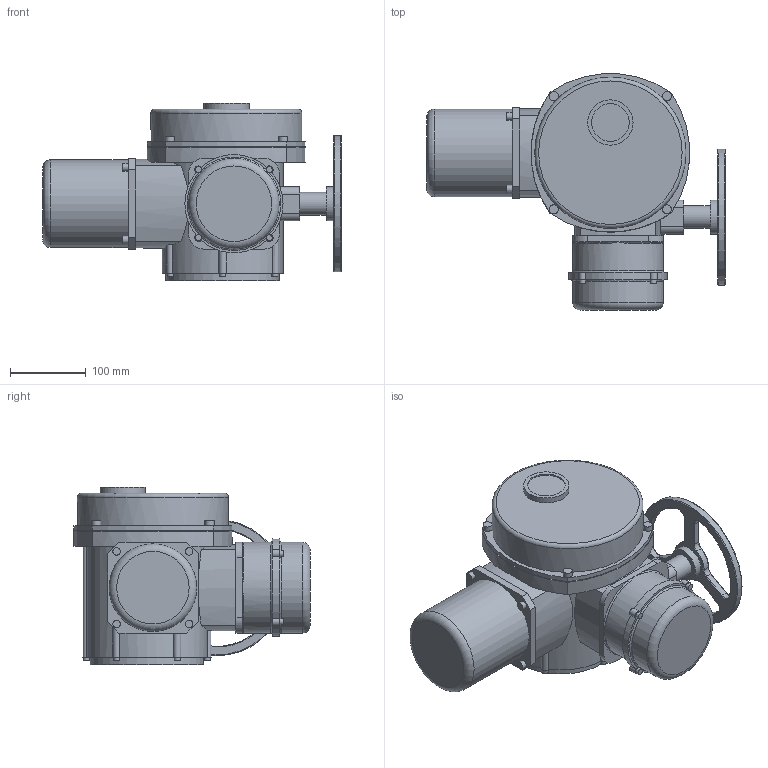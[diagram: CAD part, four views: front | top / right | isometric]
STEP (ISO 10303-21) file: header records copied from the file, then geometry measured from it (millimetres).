
FILE_DESCRIPTION(('STEP AP203'), '1');
FILE_NAME('楋樏襝鍱睯蜬蠈錪 QT.Z 060-120', '', ('UNSPECIFIED'), ('UNSPECIFIED'), 'ASCON STEP Converter 1.6', 'ASCON Math Kernel', '');
FILE_SCHEMA(('CONFIG_CONTROL_DESIGN'));
Length unit declared in the file: millimetre
Bounding box: 395 x 312.47 x 235 mm (x, y, z)
Volume: 9154880.8 mm3; surface area: 460313.5 mm2
Topology: 1 solids, 1 shells, 263 faces, 622 edges, 380 vertices
Faces by surface type: cylinder 119, plane 73, torus 47, cone 16, bspline 8
Full cylindrical faces by diameter (mm): 8 x10, 8.376 x4, 10 x4, 10.106 x4, 12 x4, 12.386 x1, 30 x1, 45 x1, 50 x1, 60 x1, 70 x1, 116 x1, 120 x2, 150 x1, 180 x1, 200 x1
Entity records: 11403 total; most frequent: CARTESIAN_POINT 3369, DIRECTION 1337, ORIENTED_EDGE 1086, AXIS2_PLACEMENT_3D 579, EDGE_CURVE 543, VERTEX_POINT 371, EDGE_LOOP 361, CIRCLE 323
